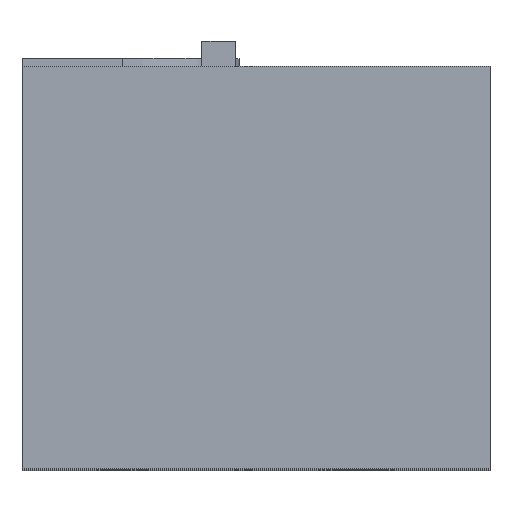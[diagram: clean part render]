
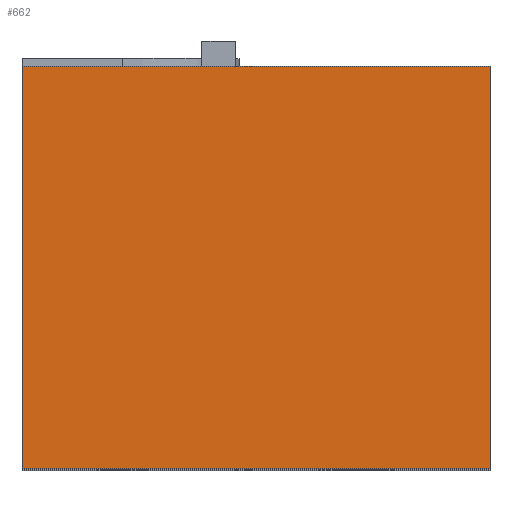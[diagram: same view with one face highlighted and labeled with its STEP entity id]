
A CAD part, top view. The second image highlights one B-rep face of the part: STEP entity #662.
In plain terms, the highlighted planar face has unit normal (0, 0, 1).
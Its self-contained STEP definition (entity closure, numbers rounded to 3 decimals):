
#94=FACE_OUTER_BOUND('',#148,.T.);
#148=EDGE_LOOP('',(#575,#576,#577,#578));
#171=LINE('',#950,#237);
#175=LINE('',#961,#241);
#215=LINE('',#1075,#281);
#219=LINE('',#1082,#285);
#237=VECTOR('',#760,28.);
#241=VECTOR('',#770,24.1);
#281=VECTOR('',#886,28.);
#285=VECTOR('',#894,24.1);
#302=VERTEX_POINT('',#947);
#303=VERTEX_POINT('',#949);
#307=VERTEX_POINT('',#959);
#343=VERTEX_POINT('',#1073);
#366=EDGE_CURVE('',#303,#302,#171,.T.);
#372=EDGE_CURVE('',#302,#307,#175,.T.);
#423=EDGE_CURVE('',#307,#343,#215,.T.);
#427=EDGE_CURVE('',#303,#343,#219,.T.);
#575=ORIENTED_EDGE('',*,*,#423,.T.);
#576=ORIENTED_EDGE('',*,*,#427,.F.);
#577=ORIENTED_EDGE('',*,*,#366,.T.);
#578=ORIENTED_EDGE('',*,*,#372,.T.);
#625=PLANE('',#719);
#662=ADVANCED_FACE('',(#94),#625,.T.);
#719=AXIS2_PLACEMENT_3D('',#1081,#892,#893);
#760=DIRECTION('',(1.,0.,0.));
#770=DIRECTION('',(0.,1.,0.));
#886=DIRECTION('',(-1.,0.,0.));
#892=DIRECTION('center_axis',(0.,0.,1.));
#893=DIRECTION('ref_axis',(1.,0.,0.));
#894=DIRECTION('',(0.,1.,0.));
#947=CARTESIAN_POINT('',(14.,0.,30.));
#949=CARTESIAN_POINT('',(-14.,0.,30.));
#950=CARTESIAN_POINT('',(-14.,0.,30.));
#959=CARTESIAN_POINT('',(14.,24.1,30.));
#961=CARTESIAN_POINT('',(14.,0.,30.));
#1073=CARTESIAN_POINT('',(-14.,24.1,30.));
#1075=CARTESIAN_POINT('',(-7.,24.1,30.));
#1081=CARTESIAN_POINT('Origin',(-14.,0.,30.));
#1082=CARTESIAN_POINT('',(-14.,0.,30.));
